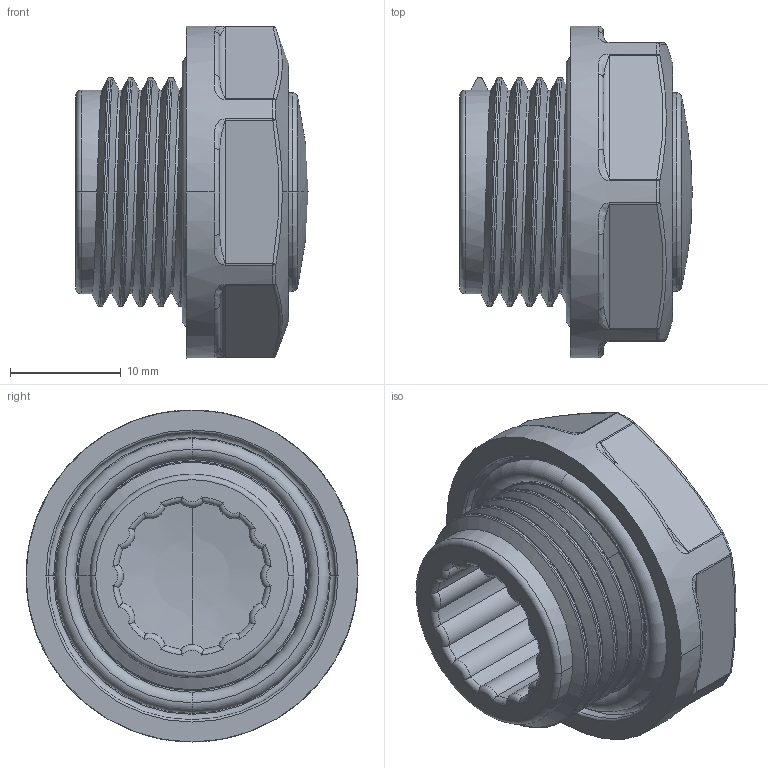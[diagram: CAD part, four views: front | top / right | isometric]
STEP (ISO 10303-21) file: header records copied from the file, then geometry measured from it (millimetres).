
FILE_DESCRIPTION(('Creo Elements/Direct Modeling STEP Export'),'2;1');
FILE_NAME('H02-0021-CL901_JB-BC16.stp','2012-02-15T14:48:16',(''),(''),'Creo Elements/Direct Modeling STEP processor for AP214 (Solid Model)','Creo Elements/Direct Modeling 18.0B 02-Dec-2011 (C) Parametric Technology GmbH','');
FILE_SCHEMA(('AUTOMOTIVE_DESIGN { 1 0 10303 214 1 1 1 1 }'));
Length unit declared in the file: millimetre
Products named in the file (2): JB-BC16
Assembly tree (1 placements, depth 2):
  JB-BC16
    JB-BC16
Bounding box: 21 x 30 x 30 mm (x, y, z)
Volume: 6095.1 mm3; surface area: 4915.3 mm2
Topology: 1 solids, 1 shells, 187 faces, 452 edges, 254 vertices
Faces by surface type: cylinder 72, torus 60, sphere 20, plane 18, bspline 16, cone 1
Entity records: 7322 total; most frequent: CARTESIAN_POINT 3558, ORIENTED_EDGE 868, DIRECTION 688, EDGE_CURVE 434, AXIS2_PLACEMENT_3D 307, VERTEX_POINT 254, EDGE_LOOP 192, FACE_OUTER_BOUND 187
